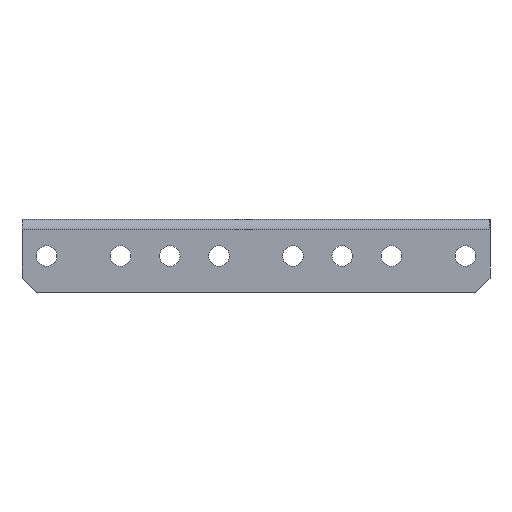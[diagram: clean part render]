
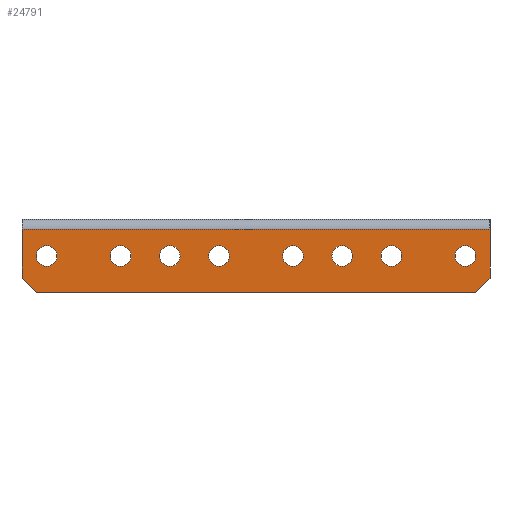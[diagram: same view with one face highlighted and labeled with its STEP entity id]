
A CAD part, front view. The second image highlights one B-rep face of the part: STEP entity #24791.
In plain terms, the highlighted planar face has unit normal (0, -1, 0).
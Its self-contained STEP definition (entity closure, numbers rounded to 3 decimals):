
#22646=CARTESIAN_POINT(' ',(-47.5,-83.,-2.1));
#22647=VERTEX_POINT(' ',#22646);
#22661=CARTESIAN_POINT(' ',(-47.5,-83.,-2.1));
#22666=DIRECTION(' ',(1.,0.,0.));
#22671=VECTOR(' ',#22666,1.);
#22676=LINE('',#22661,#22671);
#22681=CARTESIAN_POINT(' ',(47.5,-83.,-2.1));
#22682=VERTEX_POINT(' ',#22681);
#22686=EDGE_CURVE(' ',#22647,#22682,#22676,.T.);
#23816=CARTESIAN_POINT(' ',(-47.5,-83.,-12.));
#23817=VERTEX_POINT(' ',#23816);
#23831=CARTESIAN_POINT(' ',(-47.5,-83.,-2.1));
#23836=DIRECTION(' ',(0.,0.,-1.));
#23841=VECTOR(' ',#23836,1.);
#23846=LINE('',#23831,#23841);
#23851=EDGE_CURVE(' ',#22647,#23817,#23846,.T.);
#23891=DIRECTION(' ',(-0.,-1.,0.));
#23896=CARTESIAN_POINT(' ',(-47.5,-83.,-15.));
#23901=DIRECTION(' ',(1.,-0.,0.));
#23906=AXIS2_PLACEMENT_3D(' ',#23896,#23891,#23901);
#23911=PLANE('NONE',#23906);
#23916=CARTESIAN_POINT(' ',(-44.5,-83.,-15.));
#23921=DIRECTION(' ',(1.,0.,0.));
#23926=VECTOR(' ',#23921,1.);
#23931=LINE('',#23916,#23926);
#23936=CARTESIAN_POINT(' ',(-44.5,-83.,-15.));
#23937=VERTEX_POINT(' ',#23936);
#23941=CARTESIAN_POINT(' ',(44.5,-83.,-15.));
#23942=VERTEX_POINT(' ',#23941);
#23946=EDGE_CURVE(' ',#23937,#23942,#23931,.T.);
#23951=ORIENTED_EDGE(' ',*,*,#23946,.T.);
#23956=CARTESIAN_POINT(' ',(44.5,-83.,-15.));
#23961=DIRECTION(' ',(0.707,0.,0.707));
#23966=VECTOR(' ',#23961,1.);
#23971=LINE('',#23956,#23966);
#23976=CARTESIAN_POINT(' ',(47.5,-83.,-12.));
#23977=VERTEX_POINT(' ',#23976);
#23981=EDGE_CURVE(' ',#23942,#23977,#23971,.T.);
#23986=ORIENTED_EDGE(' ',*,*,#23981,.T.);
#23991=CARTESIAN_POINT(' ',(47.5,-83.,-12.));
#23996=DIRECTION(' ',(0.,0.,1.));
#24001=VECTOR(' ',#23996,1.);
#24006=LINE('',#23991,#24001);
#24011=EDGE_CURVE(' ',#23977,#22682,#24006,.T.);
#24016=ORIENTED_EDGE(' ',*,*,#24011,.T.);
#24021=ORIENTED_EDGE(' ',*,*,#22686,.F.);
#24026=ORIENTED_EDGE(' ',*,*,#23851,.T.);
#24031=CARTESIAN_POINT(' ',(-47.5,-83.,-12.));
#24036=DIRECTION(' ',(0.707,0.,-0.707));
#24041=VECTOR(' ',#24036,1.);
#24046=LINE('',#24031,#24041);
#24051=EDGE_CURVE(' ',#23817,#23937,#24046,.T.);
#24056=ORIENTED_EDGE(' ',*,*,#24051,.T.);
#24061=EDGE_LOOP(' ',(#23951,#23986,#24016,#24021,#24026,#24056));
#24066=FACE_OUTER_BOUND(' ',#24061,.T.);
#24071=CARTESIAN_POINT(' ',(42.5,-83.,-7.5));
#24076=DIRECTION(' ',(-0.,-1.,0.));
#24081=DIRECTION(' ',(0.,0.,-1.));
#24086=AXIS2_PLACEMENT_3D(' ',#24071,#24076,#24081);
#24091=CIRCLE('',#24086,2.1);
#24096=CARTESIAN_POINT(' ',(42.5,-83.,-9.6));
#24097=VERTEX_POINT(' ',#24096);
#24101=CARTESIAN_POINT(' ',(42.5,-83.,-5.4));
#24102=VERTEX_POINT(' ',#24101);
#24106=EDGE_CURVE(' ',#24097,#24102,#24091,.T.);
#24111=ORIENTED_EDGE(' ',*,*,#24106,.F.);
#24116=CARTESIAN_POINT(' ',(42.5,-83.,-7.5));
#24121=DIRECTION(' ',(0.,-1.,0.));
#24126=DIRECTION(' ',(0.,0.,1.));
#24131=AXIS2_PLACEMENT_3D(' ',#24116,#24121,#24126);
#24136=CIRCLE('',#24131,2.1);
#24141=EDGE_CURVE(' ',#24102,#24097,#24136,.T.);
#24146=ORIENTED_EDGE(' ',*,*,#24141,.F.);
#24151=EDGE_LOOP(' ',(#24111,#24146));
#24156=FACE_BOUND(' ',#24151,.T.);
#24161=CARTESIAN_POINT(' ',(27.5,-83.,-7.5));
#24166=DIRECTION(' ',(-0.,-1.,0.));
#24171=DIRECTION(' ',(0.,0.,-1.));
#24176=AXIS2_PLACEMENT_3D(' ',#24161,#24166,#24171);
#24181=CIRCLE('',#24176,2.1);
#24186=CARTESIAN_POINT(' ',(27.5,-83.,-9.6));
#24187=VERTEX_POINT(' ',#24186);
#24191=CARTESIAN_POINT(' ',(27.5,-83.,-5.4));
#24192=VERTEX_POINT(' ',#24191);
#24196=EDGE_CURVE(' ',#24187,#24192,#24181,.T.);
#24201=ORIENTED_EDGE(' ',*,*,#24196,.F.);
#24206=CARTESIAN_POINT(' ',(27.5,-83.,-7.5));
#24211=DIRECTION(' ',(0.,-1.,0.));
#24216=DIRECTION(' ',(0.,0.,1.));
#24221=AXIS2_PLACEMENT_3D(' ',#24206,#24211,#24216);
#24226=CIRCLE('',#24221,2.1);
#24231=EDGE_CURVE(' ',#24192,#24187,#24226,.T.);
#24236=ORIENTED_EDGE(' ',*,*,#24231,.F.);
#24241=EDGE_LOOP(' ',(#24201,#24236));
#24246=FACE_BOUND(' ',#24241,.T.);
#24251=CARTESIAN_POINT(' ',(-42.5,-83.,-7.5));
#24256=DIRECTION(' ',(-0.,-1.,0.));
#24261=DIRECTION(' ',(0.,0.,-1.));
#24266=AXIS2_PLACEMENT_3D(' ',#24251,#24256,#24261);
#24271=CIRCLE('',#24266,2.1);
#24276=CARTESIAN_POINT(' ',(-42.5,-83.,-9.6));
#24277=VERTEX_POINT(' ',#24276);
#24281=CARTESIAN_POINT(' ',(-42.5,-83.,-5.4));
#24282=VERTEX_POINT(' ',#24281);
#24286=EDGE_CURVE(' ',#24277,#24282,#24271,.T.);
#24291=ORIENTED_EDGE(' ',*,*,#24286,.F.);
#24296=CARTESIAN_POINT(' ',(-42.5,-83.,-7.5));
#24301=DIRECTION(' ',(0.,-1.,0.));
#24306=DIRECTION(' ',(0.,0.,1.));
#24311=AXIS2_PLACEMENT_3D(' ',#24296,#24301,#24306);
#24316=CIRCLE('',#24311,2.1);
#24321=EDGE_CURVE(' ',#24282,#24277,#24316,.T.);
#24326=ORIENTED_EDGE(' ',*,*,#24321,.F.);
#24331=EDGE_LOOP(' ',(#24291,#24326));
#24336=FACE_BOUND(' ',#24331,.T.);
#24341=CARTESIAN_POINT(' ',(-7.5,-83.,-7.5));
#24346=DIRECTION(' ',(-0.,-1.,0.));
#24351=DIRECTION(' ',(0.,0.,-1.));
#24356=AXIS2_PLACEMENT_3D(' ',#24341,#24346,#24351);
#24361=CIRCLE('',#24356,2.1);
#24366=CARTESIAN_POINT(' ',(-7.5,-83.,-9.6));
#24367=VERTEX_POINT(' ',#24366);
#24371=CARTESIAN_POINT(' ',(-7.5,-83.,-5.4));
#24372=VERTEX_POINT(' ',#24371);
#24376=EDGE_CURVE(' ',#24367,#24372,#24361,.T.);
#24381=ORIENTED_EDGE(' ',*,*,#24376,.F.);
#24386=CARTESIAN_POINT(' ',(-7.5,-83.,-7.5));
#24391=DIRECTION(' ',(0.,-1.,0.));
#24396=DIRECTION(' ',(0.,0.,1.));
#24401=AXIS2_PLACEMENT_3D(' ',#24386,#24391,#24396);
#24406=CIRCLE('',#24401,2.1);
#24411=EDGE_CURVE(' ',#24372,#24367,#24406,.T.);
#24416=ORIENTED_EDGE(' ',*,*,#24411,.F.);
#24421=EDGE_LOOP(' ',(#24381,#24416));
#24426=FACE_BOUND(' ',#24421,.T.);
#24431=CARTESIAN_POINT(' ',(-27.5,-83.,-7.5));
#24436=DIRECTION(' ',(-0.,-1.,0.));
#24441=DIRECTION(' ',(0.,0.,-1.));
#24446=AXIS2_PLACEMENT_3D(' ',#24431,#24436,#24441);
#24451=CIRCLE('',#24446,2.1);
#24456=CARTESIAN_POINT(' ',(-27.5,-83.,-9.6));
#24457=VERTEX_POINT(' ',#24456);
#24461=CARTESIAN_POINT(' ',(-27.5,-83.,-5.4));
#24462=VERTEX_POINT(' ',#24461);
#24466=EDGE_CURVE(' ',#24457,#24462,#24451,.T.);
#24471=ORIENTED_EDGE(' ',*,*,#24466,.F.);
#24476=CARTESIAN_POINT(' ',(-27.5,-83.,-7.5));
#24481=DIRECTION(' ',(0.,-1.,0.));
#24486=DIRECTION(' ',(0.,0.,1.));
#24491=AXIS2_PLACEMENT_3D(' ',#24476,#24481,#24486);
#24496=CIRCLE('',#24491,2.1);
#24501=EDGE_CURVE(' ',#24462,#24457,#24496,.T.);
#24506=ORIENTED_EDGE(' ',*,*,#24501,.F.);
#24511=EDGE_LOOP(' ',(#24471,#24506));
#24516=FACE_BOUND(' ',#24511,.T.);
#24521=CARTESIAN_POINT(' ',(7.5,-83.,-7.5));
#24526=DIRECTION(' ',(-0.,-1.,0.));
#24531=DIRECTION(' ',(0.,0.,-1.));
#24536=AXIS2_PLACEMENT_3D(' ',#24521,#24526,#24531);
#24541=CIRCLE('',#24536,2.1);
#24546=CARTESIAN_POINT(' ',(7.5,-83.,-9.6));
#24547=VERTEX_POINT(' ',#24546);
#24551=CARTESIAN_POINT(' ',(7.5,-83.,-5.4));
#24552=VERTEX_POINT(' ',#24551);
#24556=EDGE_CURVE(' ',#24547,#24552,#24541,.T.);
#24561=ORIENTED_EDGE(' ',*,*,#24556,.F.);
#24566=CARTESIAN_POINT(' ',(7.5,-83.,-7.5));
#24571=DIRECTION(' ',(0.,-1.,0.));
#24576=DIRECTION(' ',(0.,0.,1.));
#24581=AXIS2_PLACEMENT_3D(' ',#24566,#24571,#24576);
#24586=CIRCLE('',#24581,2.1);
#24591=EDGE_CURVE(' ',#24552,#24547,#24586,.T.);
#24596=ORIENTED_EDGE(' ',*,*,#24591,.F.);
#24601=EDGE_LOOP(' ',(#24561,#24596));
#24606=FACE_BOUND(' ',#24601,.T.);
#24611=CARTESIAN_POINT(' ',(17.5,-83.,-7.5));
#24616=DIRECTION(' ',(-0.,-1.,0.));
#24621=DIRECTION(' ',(0.,0.,-1.));
#24626=AXIS2_PLACEMENT_3D(' ',#24611,#24616,#24621);
#24631=CIRCLE('',#24626,2.1);
#24636=CARTESIAN_POINT(' ',(17.5,-83.,-9.6));
#24637=VERTEX_POINT(' ',#24636);
#24641=CARTESIAN_POINT(' ',(17.5,-83.,-5.4));
#24642=VERTEX_POINT(' ',#24641);
#24646=EDGE_CURVE(' ',#24637,#24642,#24631,.T.);
#24651=ORIENTED_EDGE(' ',*,*,#24646,.F.);
#24656=CARTESIAN_POINT(' ',(17.5,-83.,-7.5));
#24661=DIRECTION(' ',(0.,-1.,0.));
#24666=DIRECTION(' ',(0.,0.,1.));
#24671=AXIS2_PLACEMENT_3D(' ',#24656,#24661,#24666);
#24676=CIRCLE('',#24671,2.1);
#24681=EDGE_CURVE(' ',#24642,#24637,#24676,.T.);
#24686=ORIENTED_EDGE(' ',*,*,#24681,.F.);
#24691=EDGE_LOOP(' ',(#24651,#24686));
#24696=FACE_BOUND(' ',#24691,.T.);
#24701=CARTESIAN_POINT(' ',(-17.5,-83.,-7.5));
#24706=DIRECTION(' ',(-0.,-1.,0.));
#24711=DIRECTION(' ',(0.,0.,-1.));
#24716=AXIS2_PLACEMENT_3D(' ',#24701,#24706,#24711);
#24721=CIRCLE('',#24716,2.1);
#24726=CARTESIAN_POINT(' ',(-17.5,-83.,-9.6));
#24727=VERTEX_POINT(' ',#24726);
#24731=CARTESIAN_POINT(' ',(-17.5,-83.,-5.4));
#24732=VERTEX_POINT(' ',#24731);
#24736=EDGE_CURVE(' ',#24727,#24732,#24721,.T.);
#24741=ORIENTED_EDGE(' ',*,*,#24736,.F.);
#24746=CARTESIAN_POINT(' ',(-17.5,-83.,-7.5));
#24751=DIRECTION(' ',(0.,-1.,0.));
#24756=DIRECTION(' ',(0.,0.,1.));
#24761=AXIS2_PLACEMENT_3D(' ',#24746,#24751,#24756);
#24766=CIRCLE('',#24761,2.1);
#24771=EDGE_CURVE(' ',#24732,#24727,#24766,.T.);
#24776=ORIENTED_EDGE(' ',*,*,#24771,.F.);
#24781=EDGE_LOOP(' ',(#24741,#24776));
#24786=FACE_BOUND(' ',#24781,.T.);
#24791=ADVANCED_FACE('NONE',(#24066,#24156,#24246,#24336,#24426,#24516,#24606,#24696,#24786),#23911,.T.);
